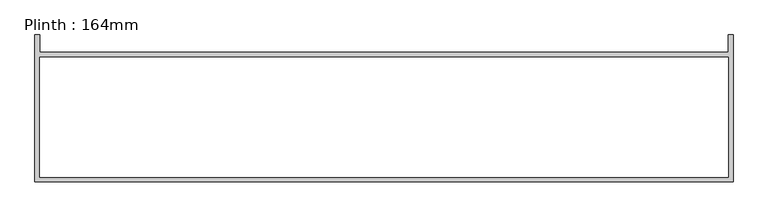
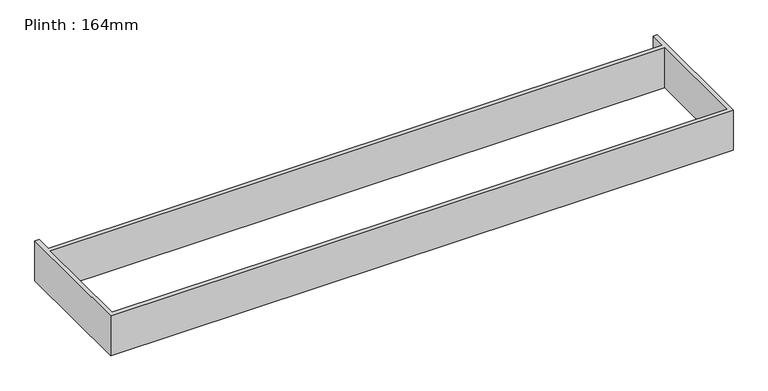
"""IFC4 building model written with IfcOpenShell, lengths in millimetres: furniture geometry, Plinth : 164mm."""

from ifc_helpers import new_model, si_unit, origin, origin_with_axes, place, context, project, spatial, polyline, outline, extrude, source, transform, mapped, element, save


def plinth_164mm_d3f21ff9(model_context):
    return source(origin(), model_context, "Body", "SweptSolid", [
        extrude(outline(polyline([(1244.7003264, -505.0), (-1155.2996736, -505.0), (-1155.2996736, 0.0), (-1139.2996736, 0.0), (-1139.2996736, -60.0), (-1075.2996736, -60.0), (1228.7003264, -60.0), (1228.7003264, 0.0), (1244.7003264, 0.0), (1244.7003264, -505.0)]), holes=[polyline([(1228.7003264, -76.0), (-1139.2996736, -76.0), (-1139.2996736, -489.0), (1228.7003264, -489.0), (1228.7003264, -76.0)])]), origin_with_axes(), (0.0, 0.0, 1.0), 164.0),
    ])


if __name__ == "__main__":
    model = new_model("IFC4")
    model_context = context("Model", 3, world=origin())
    ifc_project = project(units=[si_unit("LENGTHUNIT", "METRE", prefix="MILLI")], contexts=[model_context])
    site = spatial("IfcSite", under=ifc_project)
    building = spatial("IfcBuilding", under=site)
    placement = place(None, origin())
    plinth_164mm_shape = plinth_164mm_d3f21ff9(model_context)
    element("IfcFurniture", 1, ObjectType="Plinth : 164mm", at=placement, inside=building, context=model_context, shape_type="MappedRepresentation", body=[
        mapped(plinth_164mm_shape, transform((0.0, 0.0, 0.0), x_axis=(1.0, 0.0, 0.0), y_axis=(0.0, 1.0, 0.0), z_axis=(0.0, 0.0, 1.0))),
    ])
    save(model, "model.ifc")
